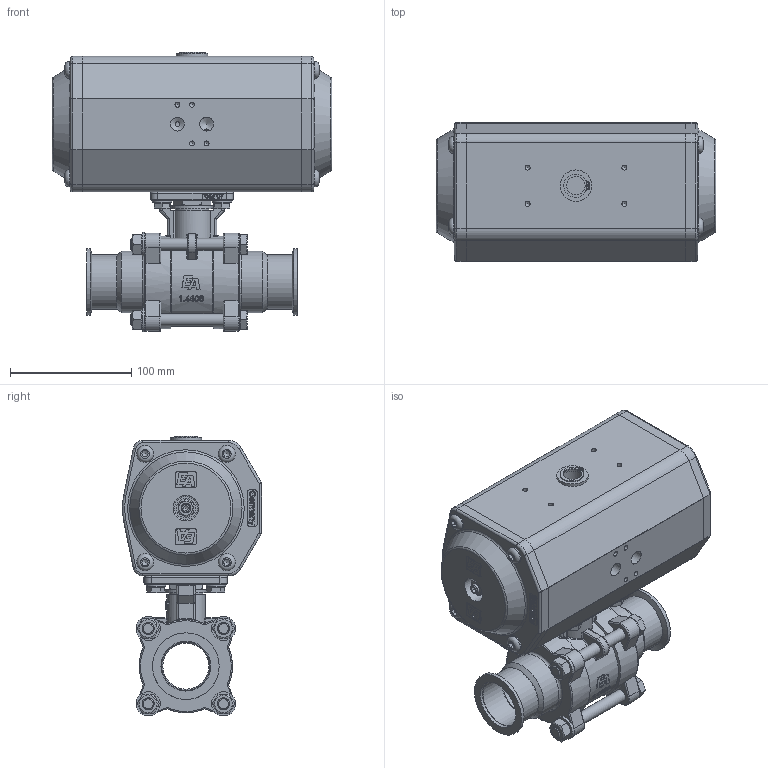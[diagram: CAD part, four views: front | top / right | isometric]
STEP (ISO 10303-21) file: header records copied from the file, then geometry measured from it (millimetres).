
FILE_DESCRIPTION( ( 'Unknown' ), '1' );
FILE_NAME( 'X:/Daten ( aktueller Bestand )/Projekte und Zeichnungen/Solid Edge/STP-Dateien/Kugelhahn, handbetätigt, pneu/413612.stp', 'Unknown', ( 'Unknown' ), ( 'Unknown' ), 'PSStep 14.0', 'Unknown', ' ' );
FILE_SCHEMA( ( 'AUTOMOTIVE_DESIGN { 1 0 10303 214 1 1 1 1 }' ) );
Length unit declared in the file: millimetre
Products named in the file (18): ED620852-KUNDEN; EDG85; EDD85-KUNDEN; EDR85-KUNDEN; DIN 125-1  A A 8.4; DIN 913  (Regelgewinde) M8 x 40; EDS0260_01_0013; DIN 471  _ 9mm _= 300mm 16 x 1; DIN EN 24 032  (Regelgewinde) M8_1; ISO 7380  (Regelgewinde) M8 x 25; Assem1; DIN 125-1  A A 10.5; DIN EN 24 032  (Regelgewinde) M10_2; ISO 4014  (Regelgewinde) M10 x 90; DIN 125-1  A A 8.4-1; ISO 4017 -  M10 x 85 M8 x 16; ZA310066; 1526
Assembly tree (44 placements, depth 3):
  Assem1
    DIN 125-1  A A 10.5  x4
    DIN EN 24 032  (Regelgewinde) M10_2  x4
    ISO 4014  (Regelgewinde) M10 x 90  x4
    DIN 125-1  A A 8.4-1  x4
    ISO 4017 -  M10 x 85 M8 x 16  x4
    ZA310066
    1526  x2
    ED620852-KUNDEN
      EDG85
      EDD85-KUNDEN  x2
      EDR85-KUNDEN
      DIN 125-1  A A 8.4  x2
      DIN 913  (Regelgewinde) M8 x 40  x2
      EDS0260_01_0013
      DIN 471  _ 9mm _= 300mm 16 x 1
      DIN EN 24 032  (Regelgewinde) M8_1  x2
      ISO 7380  (Regelgewinde) M8 x 25  x8
Bounding box: 231 x 114.88 x 231.11 mm (x, y, z)
Volume: 1912306 mm3; surface area: 344653.9 mm2
Topology: 43 solids, 43 shells, 1866 faces, 4680 edges, 3022 vertices
Faces by surface type: plane 883, cylinder 380, extrusion 205, cone 160, bspline 160, torus 74, sphere 4
Full cylindrical faces by diameter (mm): 1.7 x2, 4 x2, 4.134 x8, 4.917 x4, 6.647 x25, 8 x14, 8.376 x4, 8.4 x6, 10 x4, 10.5 x13, 11.445 x2, 11.63 x4, 14 x8, 14.63 x4, 16 x6, 18 x2, 20 x4, 21 x2, 23 x1, 26 x1, 28 x1, 35 x1, 38 x1, 38.5 x1, 39 x1, 39.5 x1, 40 x4, 41.2 x2, 45 x2, 50.8 x2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
Entity records: 69512 total; most frequent: CARTESIAN_POINT 29710, ORIENTED_EDGE 6356, DIRECTION 4746, EDGE_CURVE 3178, VERTEX_POINT 2145, VECTOR 1800, LINE 1658, EDGE_LOOP 1614
